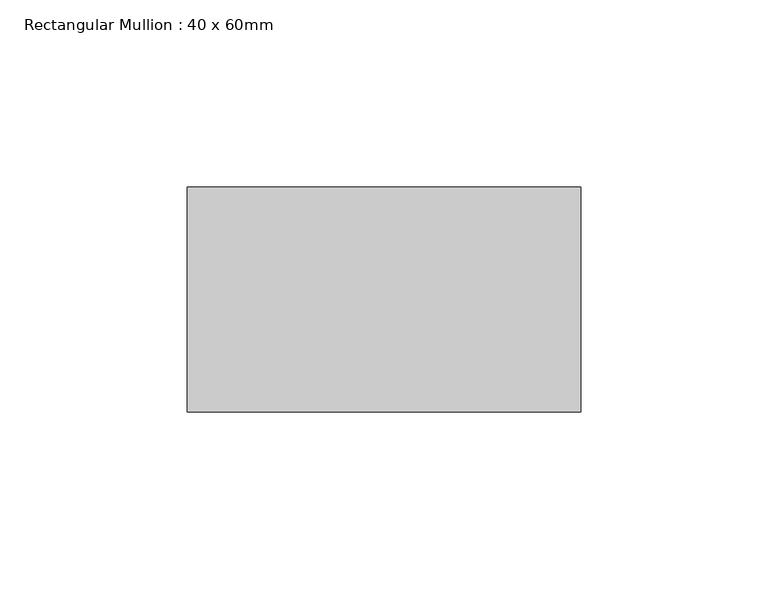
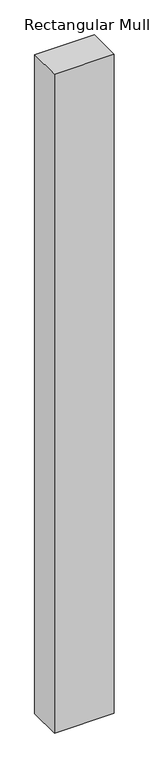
"""IFC4 building model written with IfcOpenShell, lengths in millimetres: member geometry, Rectangular Mullion : 40 x 60mm."""

from ifc_helpers import new_model, si_unit, frame, origin, place, context, project, spatial, polyline, outline, extrude, source, transform, mapped, element, save


def rectangular_mullion_40_x_60mm_0fa53e0b(model_context):
    return source(origin(), model_context, "Body", "SweptSolid", [
        extrude(outline(polyline([(0.0, -10.0), (0.0, -70.0), (-105.0, -70.0), (-105.0, -10.0), (0.0, -10.0)])), frame((0.0, 0.0, -1225.0429376), z_axis=(0.0, 0.0, 1.0), x_axis=(1.0, 0.0, 0.0)), (0.0, 0.0, 1.0), 1225.0429376),
    ])


if __name__ == "__main__":
    model = new_model("IFC4")
    model_context = context("Model", 3, world=origin())
    ifc_project = project(units=[si_unit("LENGTHUNIT", "METRE", prefix="MILLI")], contexts=[model_context])
    site = spatial("IfcSite", under=ifc_project)
    building = spatial("IfcBuilding", under=site)
    placement = place(None, origin())
    rectangular_mullion_40_x_60mm_shape = rectangular_mullion_40_x_60mm_0fa53e0b(model_context)
    element("IfcMember", 1, ObjectType="Rectangular Mullion : 40 x 60mm", at=placement, inside=building, context=model_context, shape_type="MappedRepresentation", body=[
        mapped(rectangular_mullion_40_x_60mm_shape, transform((0.0, 0.0, 0.0), x_axis=(1.0, 0.0, 0.0), y_axis=(0.0, 1.0, 0.0), z_axis=(0.0, 0.0, 1.0))),
    ])
    save(model, "model.ifc")
